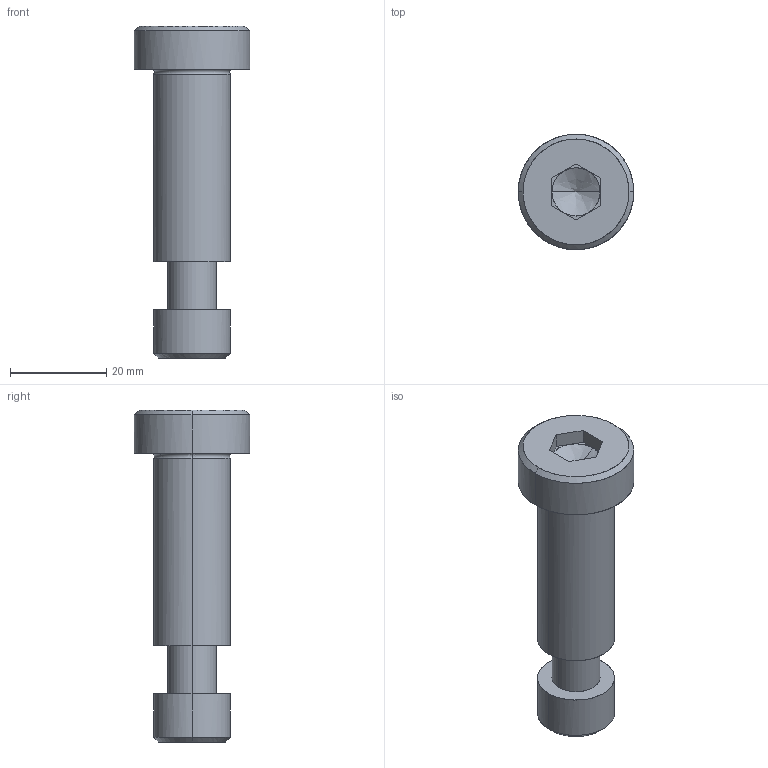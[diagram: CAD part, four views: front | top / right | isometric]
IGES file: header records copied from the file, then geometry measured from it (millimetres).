
Global section: file name: E:\UnigraphicsGraphicData\MISUMI_PRESS-PARTS\IGES\3d_sbtc16-40_05118_r00.igs; native system: NX V5.0; preprocessor: UGS NX IGES V5.0; author: MISUMI; date: 20110105.162447; units: millimetre
Bounding box: 24 x 24 x 69 mm (x, y, z)
Surface area: 6293.6 mm2 (no closed solid volume)
Topology: 0 solids, 0 shells, 52 faces, 286 edges, 282 vertices
Faces by surface type: bspline 52
